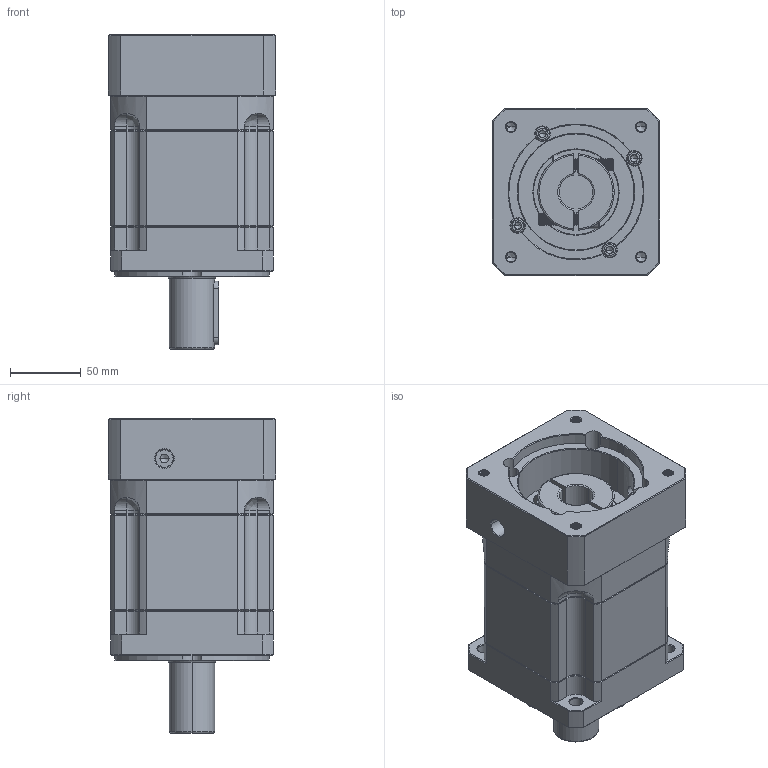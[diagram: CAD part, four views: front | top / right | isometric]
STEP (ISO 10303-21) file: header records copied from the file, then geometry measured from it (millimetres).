
FILE_DESCRIPTION (( 'STEP AP214' ), '1' );
FILE_NAME ('ZB115A-D32-L2-24-95-130-M8.step', '2023-03-02T09:01:40', ( '' ), ( 'Microsoft' ), 'SwSTEP 2.0', 'SolidWorks 2016', '' );
FILE_SCHEMA (( 'AUTOMOTIVE_DESIGN' ));
Length unit declared in the file: millimetre
Products named in the file (1): ZB115A-D32-L2-24-95-130-M8
Bounding box: 118 x 118 x 222 mm (x, y, z)
Volume: 1907122.3 mm3; surface area: 182371.3 mm2
Topology: 6 solids, 6 shells, 2124 faces, 5499 edges, 3466 vertices
Faces by surface type: plane 964, cylinder 444, cone 371, bspline 325, torus 20
Entity records: 113937 total; most frequent: CARTESIAN_POINT 41617, ORIENTED_EDGE 10930, DIRECTION 8975, EDGE_CURVE 5465, VERTEX_POINT 3466, VECTOR 3381, LINE 3381, AXIS2_PLACEMENT_3D 2797
